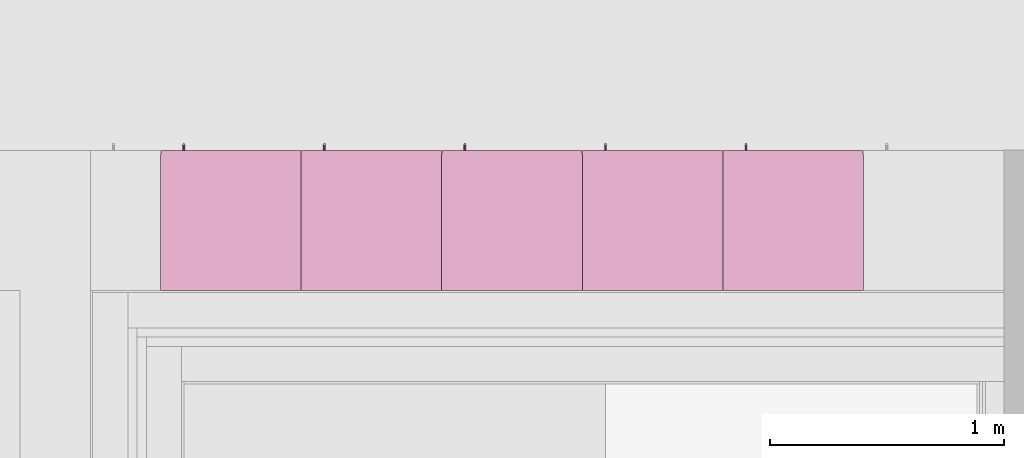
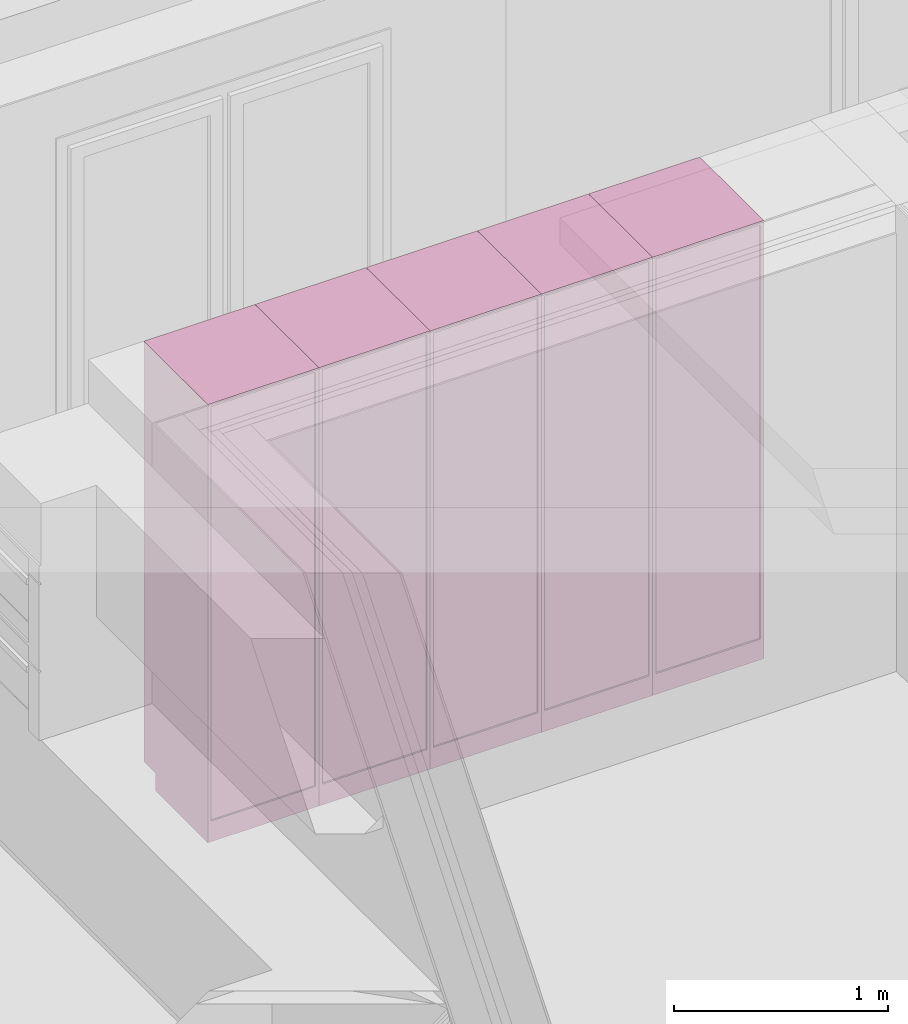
# One storey, part 33 of 34: 5 furniture elements.
"""IFC4 building model written with IfcOpenShell, lengths in millimetres."""

import ifcopenshell
import ifcopenshell.guid

model = None  # the IFC model being written
_history = None  # IfcOwnerHistory: only IFC2X3 demands one
_inside = {}  # id of a spatial element -> (the spatial element, [elements in it])
_under = {}  # id of a project, library or spatial element -> (it, [spatial elements below it])
_declared = {}  # id of a project -> (the project, [libraries it declares])
_typed = {}  # id of a type object -> (the type object, [elements of that type])
_made_of = {}  # id of a material, layer set ... -> (it, [elements and type objects made of it])


def new_model(schema):
    """Start an empty IFC model of exactly this schema.

    Asked for "IFC4X3", IfcOpenShell would pick the latest addendum, in which some entities
    have other attributes; the version numbers below select the first issue.
    IFC2X3 requires an IfcOwnerHistory on every rooted entity: one is made here for all.
    """
    global model, _history
    if schema == "IFC4X3":
        model = ifcopenshell.file(schema_version=(4, 3, 0, 0))
    else:
        model = ifcopenshell.file(schema=schema)
    _inside.clear()
    _under.clear()
    _declared.clear()
    _typed.clear()
    _made_of.clear()
    _history = None
    if model.schema == "IFC2X3":
        org = make("IfcOrganization", Name="unknown")
        user = make(
            "IfcPersonAndOrganization",
            ThePerson=make("IfcPerson", FamilyName="unknown"),
            TheOrganization=org,
        )
        app = make(
            "IfcApplication",
            ApplicationDeveloper=org,
            Version="unknown",
            ApplicationFullName="unknown",
            ApplicationIdentifier="unknown",
        )
        _history = make(
            "IfcOwnerHistory",
            OwningUser=user,
            OwningApplication=app,
            ChangeAction="ADDED",
            CreationDate=0,
        )
    return model


def make(cls, **values):
    """One entity of the class cls with the attributes given. An attribute that is None is left unset."""
    return model.create_entity(
        cls, **{name: value for name, value in values.items() if value is not None}
    )


def entity(cls, *values):
    """Any entity or typed value of the class cls, its attributes in the order of the schema. None: left unset."""
    e = model.create_entity(cls)
    for i, value in enumerate(values):
        if value is not None:
            e[i] = value
    return e


def rooted(cls, **values):
    """An entity with a GlobalId (a new one), such as an element, a storey or a relation."""
    return make(cls, GlobalId=ifcopenshell.guid.new(), OwnerHistory=_history, **values)


def si_unit(unit_type, name, prefix=None):
    """IfcSIUnit, for example si_unit("LENGTHUNIT", "METRE", prefix="MILLI")."""
    return make("IfcSIUnit", UnitType=unit_type, Prefix=prefix, Name=name)


def converted_unit(unit_type, name, factor, base, dimensions=None, offset=None):
    """IfcConversionBasedUnit, such as the inch: factor (a typed value) times the base unit."""
    return make(
        "IfcConversionBasedUnit"
        if offset is None
        else "IfcConversionBasedUnitWithOffset",
        ConversionOffset=offset,
        Dimensions=None
        if dimensions is None
        else entity("IfcDimensionalExponents", *dimensions),
        UnitType=unit_type,
        Name=name,
        ConversionFactor=make(
            "IfcMeasureWithUnit", ValueComponent=factor, UnitComponent=base
        ),
    )


def derived_unit(unit_type, elements):
    """IfcDerivedUnit: a product of units, each with its exponent."""
    return make(
        "IfcDerivedUnit",
        Elements=[
            make("IfcDerivedUnitElement", Unit=unit, Exponent=power)
            for unit, power in elements
        ],
        UnitType=unit_type,
    )


def assignment(units):
    """IfcUnitAssignment: the units of a project."""
    return None if units is None else make("IfcUnitAssignment", Units=units)


def point(xyz):
    """IfcCartesianPoint."""
    return None if xyz is None else make("IfcCartesianPoint", Coordinates=xyz)


def direction(xyz):
    """IfcDirection."""
    return None if xyz is None else make("IfcDirection", DirectionRatios=xyz)


def frame(location, z_axis=None, x_axis=None):
    """IfcAxis2Placement3D, a coordinate frame: its origin and axes. An axis left out is left unset."""
    return make(
        "IfcAxis2Placement3D",
        Location=point(location),
        Axis=direction(z_axis),
        RefDirection=direction(x_axis),
    )


def origin_with_axes():
    """The frame at (0, 0, 0) with the z axis (0, 0, 1) and the x axis (1, 0, 0) written out."""
    return frame((0.0, 0.0, 0.0), z_axis=(0.0, 0.0, 1.0), x_axis=(1.0, 0.0, 0.0))


def place(relative_to, where):
    """IfcLocalPlacement: puts the frame where relative to a parent placement (None: the world)."""
    return make(
        "IfcLocalPlacement", PlacementRelTo=relative_to, RelativePlacement=where
    )


def context(
    kind, dimensions, precision=None, world=None, true_north=None, identifier=None
):
    """IfcGeometricRepresentationContext, for example the 3D "Model" context."""
    return make(
        "IfcGeometricRepresentationContext",
        ContextIdentifier=identifier,
        ContextType=kind,
        CoordinateSpaceDimension=dimensions,
        Precision=precision,
        WorldCoordinateSystem=world,
        TrueNorth=true_north,
    )


def subcontext(parent, identifier, kind, view, scale=None):
    """IfcGeometricRepresentationSubContext, for example "Body" below "Model"."""
    return make(
        "IfcGeometricRepresentationSubContext",
        ContextIdentifier=identifier,
        ContextType=kind,
        ParentContext=parent,
        TargetScale=scale,
        TargetView=view,
    )


def project(units=None, contexts=None):
    """IfcProject with its units and contexts."""
    return rooted(
        "IfcProject",
        Name="project",
        RepresentationContexts=contexts,
        UnitsInContext=assignment(units),
    )


def spatial(cls, under=None, at=None, **own):
    """A site, building, storey or space (cls), placed at a placement, below another one or the project."""
    s = rooted(cls, ObjectPlacement=at, **own)
    if under is not None:
        _under.setdefault(under.id(), (under, []))[1].append(s)
    return s


def point_list(points):
    """IfcCartesianPointList2D or 3D."""
    cls = (
        "IfcCartesianPointList2D" if len(points[0]) == 2 else "IfcCartesianPointList3D"
    )
    return make(cls, CoordList=points)


def polygons(points, faces, closed=None, point_numbers=None):
    """IfcPolygonalFaceSet: a face is its outer loop, then its inner loops; points numbered from 1."""
    made = []
    for loops in faces:
        if len(loops) == 1:
            made.append(make("IfcIndexedPolygonalFace", CoordIndex=loops[0]))
        else:
            made.append(
                make(
                    "IfcIndexedPolygonalFaceWithVoids",
                    CoordIndex=loops[0],
                    InnerCoordIndices=loops[1:],
                )
            )
    return make(
        "IfcPolygonalFaceSet",
        Coordinates=point_list(points),
        Closed=closed,
        Faces=made,
        PnIndex=point_numbers,
    )


def shape(context_of_items, identifier, shape_type, items):
    """IfcShapeRepresentation: the items that make up one representation, for example the "Body"."""
    return make(
        "IfcShapeRepresentation",
        ContextOfItems=context_of_items,
        RepresentationIdentifier=identifier,
        RepresentationType=shape_type,
        Items=items,
    )


def source(mapping_origin, context_of_items, identifier, shape_type, items):
    """IfcRepresentationMap: a shape defined once, which mapped items show again and again."""
    return make(
        "IfcRepresentationMap",
        MappingOrigin=mapping_origin,
        MappedRepresentation=shape(context_of_items, identifier, shape_type, items),
    )


def transform(
    local_origin,
    x_axis=None,
    y_axis=None,
    z_axis=None,
    scale=None,
    scale2=None,
    scale3=None,
    uniform=True,
):
    """IfcCartesianTransformationOperator3D, or its non-uniform kind. x_axis, y_axis, z_axis: its Axis1, 2, 3."""
    if uniform:
        return make(
            "IfcCartesianTransformationOperator3D",
            Axis1=direction(x_axis),
            Axis2=direction(y_axis),
            LocalOrigin=point(local_origin),
            Scale=scale,
            Axis3=direction(z_axis),
        )
    return make(
        "IfcCartesianTransformationOperator3DnonUniform",
        Axis1=direction(x_axis),
        Axis2=direction(y_axis),
        LocalOrigin=point(local_origin),
        Scale=scale,
        Axis3=direction(z_axis),
        Scale2=scale2,
        Scale3=scale3,
    )


def mapped(mapping_source, mapping_target):
    """IfcMappedItem: shows the shape of a source again, moved by a transform."""
    return make(
        "IfcMappedItem", MappingSource=mapping_source, MappingTarget=mapping_target
    )


def made_of(thing, what):
    """Note that an element or type object is made of a material, layer set ...; save() writes the relation."""
    if what is not None:
        _made_of.setdefault(what.id(), (what, []))[1].append(thing)
    return thing


def type_object(cls, material=None, **own):
    """A type object (cls), such as IfcWallType, which elements share."""
    return made_of(rooted(cls, **own), material)


def element(
    cls,
    number,
    at=None,
    inside=None,
    cuts=None,
    type_object=None,
    material=None,
    context=None,
    identifier="Body",
    shape_type=None,
    held_by="IfcProductDefinitionShape",
    body=None,
    shapes=None,
    **own,
):
    """One element of the class cls, such as IfcWall. Its Tag is "e" and its number.

    at: its placement. inside: the storey or other place that contains it. cuts: it is an
    opening in that element (IfcRelVoidsElement). A single representation is given by context,
    identifier, shape_type and body (its items); several are given by shapes. held_by: the class
    of the entity that holds the representations. save() writes the other relations.
    """
    e = rooted(cls, Tag="e%d" % number, ObjectPlacement=at, **own)
    if body is not None:
        shapes = [shape(context, identifier, shape_type, body)]
    if shapes is not None:
        e.Representation = make(held_by, Representations=shapes)
    if inside is not None:
        _inside.setdefault(inside.id(), (inside, []))[1].append(e)
    if cuts is not None:
        rooted(
            "IfcRelVoidsElement", RelatingBuildingElement=cuts, RelatedOpeningElement=e
        )
    if type_object is not None:
        _typed.setdefault(type_object.id(), (type_object, []))[1].append(e)
    return made_of(e, material)


def aggregate(whole, parts):
    """IfcRelAggregates: a whole, such as a stair, and the parts it consists of."""
    return rooted("IfcRelAggregates", RelatingObject=whole, RelatedObjects=parts)


def save(model, path):
    """Write the relations noted so far, then the file.

    IfcRelAggregates (storeys below a building ...), IfcRelContainedInSpatialStructure (elements
    in a storey), IfcRelDefinesByType, IfcRelAssociatesMaterial and IfcRelDeclares: one each for
    every whole, place, type object, material and project.
    """
    for whole, parts in _under.values():
        aggregate(whole, parts)
    for where, things in _inside.values():
        rooted(
            "IfcRelContainedInSpatialStructure",
            RelatedElements=things,
            RelatingStructure=where,
        )
    for kind, things in _typed.values():
        rooted("IfcRelDefinesByType", RelatedObjects=things, RelatingType=kind)
    for what, things in _made_of.values():
        rooted("IfcRelAssociatesMaterial", RelatedObjects=things, RelatingMaterial=what)
    for by, libraries in _declared.values():
        rooted("IfcRelDeclares", RelatingContext=by, RelatedDefinitions=libraries)
    model.write(path)


model = new_model("IFC4")

# Units and contexts
model_context = context("Model", 3, precision=0.01, world=origin_with_axes(), true_north=direction((0.0, 1.0)))
body_context = subcontext(model_context, "Body", "Model", "MODEL_VIEW")
ifc_project = project(units=[si_unit("LENGTHUNIT", "METRE", prefix="MILLI"), si_unit("AREAUNIT", "SQUARE_METRE"), si_unit("VOLUMEUNIT", "CUBIC_METRE"), converted_unit("PLANEANGLEUNIT", "DEGREE", entity("IfcPlaneAngleMeasure", 0.0174532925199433), si_unit("PLANEANGLEUNIT", "RADIAN"), dimensions=[0, 0, 0, 0, 0, 0, 0]), converted_unit("TIMEUNIT", "Year", entity("IfcTimeMeasure", 31557600.0), si_unit("TIMEUNIT", "SECOND"), dimensions=[0, 0, 1, 0, 0, 0, 0]), si_unit("MASSUNIT", "GRAM", prefix="KILO"), si_unit("THERMODYNAMICTEMPERATUREUNIT", "DEGREE_CELSIUS"), si_unit("LUMINOUSINTENSITYUNIT", "LUMEN"), si_unit("ENERGYUNIT", "JOULE", prefix="MEGA"), derived_unit("THERMALCONDUCTANCEUNIT", [(si_unit("POWERUNIT", "WATT"), 1), (si_unit("LENGTHUNIT", "METRE"), -1), (si_unit("THERMODYNAMICTEMPERATUREUNIT", "KELVIN"), -1)]), derived_unit("SPECIFICHEATCAPACITYUNIT", [(si_unit("ENERGYUNIT", "JOULE"), 1), (si_unit("MASSUNIT", "GRAM", prefix="KILO"), -1), (si_unit("THERMODYNAMICTEMPERATUREUNIT", "KELVIN"), -1)]), derived_unit("MASSDENSITYUNIT", [(si_unit("MASSUNIT", "GRAM", prefix="KILO"), 1), (si_unit("VOLUMEUNIT", "CUBIC_METRE"), -1)])], contexts=[model_context])

# Site, building, storey
site_placement = place(None, origin_with_axes())
site = spatial("IfcSite", under=ifc_project, at=site_placement, Name="Gelände", CompositionType="ELEMENT")
building_placement = place(site_placement, origin_with_axes())
building = spatial("IfcBuilding", under=site, at=building_placement, Name="Gebäude", CompositionType="ELEMENT")
storey_placement = place(building_placement, frame((0.0, 0.0, 2900.0), z_axis=(0.0, 0.0, 1.0), x_axis=(1.0, 0.0, 0.0)))
storey = spatial("IfcBuildingStorey", under=building, at=storey_placement, Name="1.OG", CompositionType="ELEMENT", Elevation=2900.0)

# Furniture
furniture_type = type_object("IfcFurnitureType", Name="Stehender Schrank Block 27", AssemblyPlace="NOTDEFINED", PredefinedType="NOTDEFINED")
shared_shape = source(origin_with_axes(), body_context, "Body", "Tessellation", [
    polygons([(501.8682408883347, -597.9999999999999, 1352.799038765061), (502.7101007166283, -597.9999999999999, 1352.573463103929), (503.4999999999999, -597.9999999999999, 1352.205127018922), (504.2139380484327, -597.9999999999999, 1351.705222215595), (504.8302222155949, -597.9999999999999, 1351.088938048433), (505.3301270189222, -597.9999999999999, 1350.375), (505.6984631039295, -597.9999999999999, 1349.585100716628), (505.924038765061, -597.9999999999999, 1348.743240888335), (506.0, -597.9999999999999, 1347.875), (505.924038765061, -597.9999999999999, 1347.006759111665), (505.6984631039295, -597.9999999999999, 1346.164899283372), (505.3301270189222, -597.9999999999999, 1345.375), (504.8302222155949, -597.9999999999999, 1344.661061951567), (504.2139380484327, -597.9999999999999, 1344.044777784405), (503.4999999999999, -597.9999999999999, 1343.544872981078), (502.7101007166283, -597.9999999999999, 1343.176536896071), (501.8682408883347, -597.9999999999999, 1342.950961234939), (501.0, -597.9999999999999, 1342.875), (500.1317591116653, -597.9999999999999, 1342.950961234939), (499.2898992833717, -597.9999999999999, 1343.176536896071), (498.5, -597.9999999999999, 1343.544872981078), (497.7860619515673, -597.9999999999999, 1344.044777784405), (497.1697777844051, -597.9999999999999, 1344.661061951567), (496.6698729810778, -597.9999999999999, 1345.375), (496.3015368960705, -597.9999999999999, 1346.164899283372), (496.075961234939, -597.9999999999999, 1347.006759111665), (496.0, -597.9999999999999, 1347.875), (496.075961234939, -597.9999999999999, 1348.743240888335), (496.3015368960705, -597.9999999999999, 1349.585100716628), (496.6698729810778, -597.9999999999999, 1350.375), (497.1697777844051, -597.9999999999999, 1351.088938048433), (497.7860619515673, -597.9999999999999, 1351.705222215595), (498.5, -597.9999999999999, 1352.205127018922), (499.2898992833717, -597.9999999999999, 1352.573463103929), (500.1317591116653, -597.9999999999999, 1352.799038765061), (501.0, -597.9999999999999, 1352.875), (501.8682408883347, -622.9999999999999, 1352.799038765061), (502.7101007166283, -622.9999999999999, 1352.573463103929), (503.4999999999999, -622.9999999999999, 1352.205127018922), (504.2139380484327, -622.9999999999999, 1351.705222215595), (504.8302222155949, -622.9999999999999, 1351.088938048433), (505.3301270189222, -622.9999999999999, 1350.375), (505.6984631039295, -622.9999999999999, 1349.585100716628), (505.924038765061, -622.9999999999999, 1348.743240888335), (506.0, -622.9999999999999, 1347.875), (505.924038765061, -622.9999999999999, 1347.006759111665), (505.6984631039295, -622.9999999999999, 1346.164899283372), (505.3301270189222, -622.9999999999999, 1345.375), (504.8302222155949, -622.9999999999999, 1344.661061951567), (504.2139380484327, -622.9999999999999, 1344.044777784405), (503.4999999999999, -622.9999999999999, 1343.544872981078), (502.7101007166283, -622.9999999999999, 1343.176536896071), (501.8682408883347, -622.9999999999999, 1342.950961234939), (501.0, -622.9999999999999, 1342.875), (500.1317591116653, -622.9999999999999, 1342.950961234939), (499.2898992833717, -622.9999999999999, 1343.176536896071), (498.5, -622.9999999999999, 1343.544872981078), (497.7860619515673, -622.9999999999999, 1344.044777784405), (497.1697777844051, -622.9999999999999, 1344.661061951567), (496.6698729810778, -622.9999999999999, 1345.375), (496.3015368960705, -622.9999999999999, 1346.164899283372), (496.075961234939, -622.9999999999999, 1347.006759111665), (496.0, -622.9999999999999, 1347.875), (496.075961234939, -622.9999999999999, 1348.743240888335), (496.3015368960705, -622.9999999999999, 1349.585100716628), (496.6698729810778, -622.9999999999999, 1350.375), (497.1697777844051, -622.9999999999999, 1351.088938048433), (497.7860619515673, -622.9999999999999, 1351.705222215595), (498.5, -622.9999999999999, 1352.205127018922), (499.2898992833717, -622.9999999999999, 1352.573463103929), (500.1317591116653, -622.9999999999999, 1352.799038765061), (501.0, -622.9999999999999, 1352.875)], [[[1, 2, 3, 4, 5, 6, 7, 8, 9, 10, 11, 12, 13, 14, 15, 16, 17, 18, 19, 20, 21, 22, 23, 24, 25, 26, 27, 28, 29, 30, 31, 32, 33, 34, 35, 36]], [[2, 1, 37, 38]], [[3, 2, 38, 39]], [[4, 3, 39, 40]], [[5, 4, 40, 41]], [[6, 5, 41, 42]], [[7, 6, 42, 43]], [[8, 7, 43, 44]], [[9, 8, 44, 45]], [[10, 9, 45, 46]], [[11, 10, 46, 47]], [[12, 11, 47, 48]], [[13, 12, 48, 49]], [[14, 13, 49, 50]], [[15, 14, 50, 51]], [[16, 15, 51, 52]], [[17, 16, 52, 53]], [[18, 17, 53, 54]], [[19, 18, 54, 55]], [[20, 19, 55, 56]], [[21, 20, 56, 57]], [[22, 21, 57, 58]], [[23, 22, 58, 59]], [[24, 23, 59, 60]], [[25, 24, 60, 61]], [[26, 25, 61, 62]], [[27, 26, 62, 63]], [[28, 27, 63, 64]], [[29, 28, 64, 65]], [[30, 29, 65, 66]], [[31, 30, 66, 67]], [[32, 31, 67, 68]], [[33, 32, 68, 69]], [[34, 33, 69, 70]], [[35, 34, 70, 71]], [[36, 35, 71, 72]], [[1, 36, 72, 37]], [[37, 72, 71, 70, 69, 68, 67, 66, 65, 64, 63, 62, 61, 60, 59, 58, 57, 56, 55, 54, 53, 52, 51, 50, 49, 48, 47, 46, 45, 44, 43, 42, 41, 40, 39, 38]]], closed=True),
    polygons([(501.8682408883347, -597.9999999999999, 1249.200961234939), (501.0, -597.9999999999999, 1249.125), (500.1317591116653, -597.9999999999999, 1249.200961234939), (499.2898992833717, -597.9999999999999, 1249.426536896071), (498.5, -597.9999999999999, 1249.794872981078), (497.7860619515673, -597.9999999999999, 1250.294777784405), (497.1697777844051, -597.9999999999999, 1250.911061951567), (496.6698729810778, -597.9999999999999, 1251.625), (496.3015368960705, -597.9999999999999, 1252.414899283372), (496.075961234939, -597.9999999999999, 1253.256759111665), (496.0, -597.9999999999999, 1254.125), (496.075961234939, -597.9999999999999, 1254.993240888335), (496.3015368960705, -597.9999999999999, 1255.835100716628), (496.6698729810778, -597.9999999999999, 1256.625), (497.1697777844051, -597.9999999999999, 1257.338938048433), (497.7860619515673, -597.9999999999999, 1257.955222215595), (498.5, -597.9999999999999, 1258.455127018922), (499.2898992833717, -597.9999999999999, 1258.823463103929), (500.1317591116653, -597.9999999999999, 1259.049038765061), (501.0, -597.9999999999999, 1259.125), (501.8682408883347, -597.9999999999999, 1259.049038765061), (502.7101007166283, -597.9999999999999, 1258.823463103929), (503.4999999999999, -597.9999999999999, 1258.455127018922), (504.2139380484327, -597.9999999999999, 1257.955222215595), (504.8302222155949, -597.9999999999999, 1257.338938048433), (505.3301270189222, -597.9999999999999, 1256.625), (505.6984631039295, -597.9999999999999, 1255.835100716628), (505.924038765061, -597.9999999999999, 1254.993240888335), (506.0, -597.9999999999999, 1254.125), (505.924038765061, -597.9999999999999, 1253.256759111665), (505.6984631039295, -597.9999999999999, 1252.414899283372), (505.3301270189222, -597.9999999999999, 1251.625), (504.8302222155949, -597.9999999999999, 1250.911061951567), (504.2139380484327, -597.9999999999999, 1250.294777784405), (503.4999999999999, -597.9999999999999, 1249.794872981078), (502.7101007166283, -597.9999999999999, 1249.426536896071), (501.8682408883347, -622.9999999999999, 1249.200961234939), (501.0, -622.9999999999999, 1249.125), (500.1317591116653, -622.9999999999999, 1249.200961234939), (499.2898992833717, -622.9999999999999, 1249.426536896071), (498.5, -622.9999999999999, 1249.794872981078), (497.7860619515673, -622.9999999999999, 1250.294777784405), (497.1697777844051, -622.9999999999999, 1250.911061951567), (496.6698729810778, -622.9999999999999, 1251.625), (496.3015368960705, -622.9999999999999, 1252.414899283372), (496.075961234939, -622.9999999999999, 1253.256759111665), (496.0, -622.9999999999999, 1254.125), (496.075961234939, -622.9999999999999, 1254.993240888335), (496.3015368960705, -622.9999999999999, 1255.835100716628), (496.6698729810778, -622.9999999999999, 1256.625), (497.1697777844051, -622.9999999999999, 1257.338938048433), (497.7860619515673, -622.9999999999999, 1257.955222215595), (498.5, -622.9999999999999, 1258.455127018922), (499.2898992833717, -622.9999999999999, 1258.823463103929), (500.1317591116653, -622.9999999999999, 1259.049038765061), (501.0, -622.9999999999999, 1259.125), (501.8682408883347, -622.9999999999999, 1259.049038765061), (502.7101007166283, -622.9999999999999, 1258.823463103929), (503.4999999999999, -622.9999999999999, 1258.455127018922), (504.2139380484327, -622.9999999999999, 1257.955222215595), (504.8302222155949, -622.9999999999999, 1257.338938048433), (505.3301270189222, -622.9999999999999, 1256.625), (505.6984631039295, -622.9999999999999, 1255.835100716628), (505.924038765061, -622.9999999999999, 1254.993240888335), (506.0, -622.9999999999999, 1254.125), (505.924038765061, -622.9999999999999, 1253.256759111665), (505.6984631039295, -622.9999999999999, 1252.414899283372), (505.3301270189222, -622.9999999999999, 1251.625), (504.8302222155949, -622.9999999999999, 1250.911061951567), (504.2139380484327, -622.9999999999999, 1250.294777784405), (503.4999999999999, -622.9999999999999, 1249.794872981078), (502.7101007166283, -622.9999999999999, 1249.426536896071)], [[[1, 2, 3, 4, 5, 6, 7, 8, 9, 10, 11, 12, 13, 14, 15, 16, 17, 18, 19, 20, 21, 22, 23, 24, 25, 26, 27, 28, 29, 30, 31, 32, 33, 34, 35, 36]], [[1, 37, 38, 2]], [[2, 38, 39, 3]], [[3, 39, 40, 4]], [[4, 40, 41, 5]], [[5, 41, 42, 6]], [[6, 42, 43, 7]], [[7, 43, 44, 8]], [[8, 44, 45, 9]], [[9, 45, 46, 10]], [[10, 46, 47, 11]], [[11, 47, 48, 12]], [[12, 48, 49, 13]], [[13, 49, 50, 14]], [[14, 50, 51, 15]], [[15, 51, 52, 16]], [[16, 52, 53, 17]], [[17, 53, 54, 18]], [[18, 54, 55, 19]], [[19, 55, 56, 20]], [[20, 56, 57, 21]], [[21, 57, 58, 22]], [[22, 58, 59, 23]], [[23, 59, 60, 24]], [[24, 60, 61, 25]], [[25, 61, 62, 26]], [[26, 62, 63, 27]], [[27, 63, 64, 28]], [[28, 64, 65, 29]], [[29, 65, 66, 30]], [[30, 66, 67, 31]], [[31, 67, 68, 32]], [[32, 68, 69, 33]], [[33, 69, 70, 34]], [[34, 70, 71, 35]], [[35, 71, 72, 36]], [[36, 72, 37, 1]], [[37, 72, 71, 70, 69, 68, 67, 66, 65, 64, 63, 62, 61, 60, 59, 58, 57, 56, 55, 54, 53, 52, 51, 50, 49, 48, 47, 46, 45, 44, 43, 42, 41, 40, 39, 38]]], closed=True),
    polygons([(501.8682408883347, -618.0759612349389, 1226.0), (502.7101007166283, -618.3015368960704, 1226.0), (503.4999999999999, -618.6698729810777, 1226.0), (504.2139380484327, -619.1697777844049, 1226.0), (504.8302222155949, -619.7860619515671, 1226.0), (505.3301270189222, -620.4999999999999, 1226.0), (505.6984631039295, -621.2898992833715, 1226.0), (505.924038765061, -622.1317591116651, 1226.0), (506.0, -622.9999999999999, 1226.0), (505.924038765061, -623.8682408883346, 1226.0), (505.6984631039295, -624.7101007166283, 1226.0), (505.3301270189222, -625.4999999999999, 1226.0), (504.8302222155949, -626.2139380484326, 1226.0), (504.2139380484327, -626.8302222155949, 1226.0), (503.4999999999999, -627.3301270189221, 1226.0), (502.7101007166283, -627.6984631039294, 1226.0), (501.8682408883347, -627.924038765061, 1226.0), (501.0, -627.9999999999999, 1226.0), (500.1317591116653, -627.924038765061, 1226.0), (499.2898992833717, -627.6984631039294, 1226.0), (498.5, -627.3301270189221, 1226.0), (497.7860619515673, -626.8302222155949, 1226.0), (497.1697777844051, -626.2139380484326, 1226.0), (496.6698729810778, -625.4999999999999, 1226.0), (496.3015368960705, -624.7101007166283, 1226.0), (496.075961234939, -623.8682408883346, 1226.0), (496.0, -622.9999999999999, 1226.0), (496.075961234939, -622.1317591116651, 1226.0), (496.3015368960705, -621.2898992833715, 1226.0), (496.6698729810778, -620.4999999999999, 1226.0), (497.1697777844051, -619.7860619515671, 1226.0), (497.7860619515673, -619.1697777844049, 1226.0), (498.5, -618.6698729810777, 1226.0), (499.2898992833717, -618.3015368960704, 1226.0), (500.1317591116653, -618.0759612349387, 1226.0), (501.0, -617.9999999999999, 1226.0), (501.8682408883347, -618.0759612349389, 1376.0), (502.7101007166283, -618.3015368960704, 1376.0), (503.5000000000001, -618.6698729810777, 1376.0), (504.2139380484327, -619.1697777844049, 1376.0), (504.8302222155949, -619.7860619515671, 1376.0), (505.3301270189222, -620.4999999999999, 1376.0), (505.6984631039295, -621.2898992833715, 1376.0), (505.9240387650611, -622.1317591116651, 1376.0), (506.0, -622.9999999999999, 1376.0), (505.9240387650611, -623.8682408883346, 1376.0), (505.6984631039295, -624.7101007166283, 1376.0), (505.3301270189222, -625.4999999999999, 1376.0), (504.8302222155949, -626.2139380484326, 1376.0), (504.2139380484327, -626.8302222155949, 1376.0), (503.5000000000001, -627.3301270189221, 1376.0), (502.7101007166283, -627.6984631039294, 1376.0), (501.8682408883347, -627.924038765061, 1376.0), (501.0, -627.9999999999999, 1376.0), (500.1317591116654, -627.924038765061, 1376.0), (499.2898992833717, -627.6984631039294, 1376.0), (498.5, -627.3301270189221, 1376.0), (497.7860619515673, -626.8302222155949, 1376.0), (497.1697777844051, -626.2139380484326, 1376.0), (496.6698729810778, -625.4999999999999, 1376.0), (496.3015368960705, -624.7101007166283, 1376.0), (496.075961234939, -623.8682408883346, 1376.0), (496.0, -622.9999999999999, 1376.0), (496.075961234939, -622.1317591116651, 1376.0), (496.3015368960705, -621.2898992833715, 1376.0), (496.6698729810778, -620.4999999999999, 1376.0), (497.1697777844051, -619.7860619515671, 1376.0), (497.7860619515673, -619.1697777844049, 1376.0), (498.5, -618.6698729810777, 1376.0), (499.2898992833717, -618.3015368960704, 1376.0), (500.1317591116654, -618.0759612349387, 1376.0), (501.0, -617.9999999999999, 1376.0)], [[[1, 2, 3, 4, 5, 6, 7, 8, 9, 10, 11, 12, 13, 14, 15, 16, 17, 18, 19, 20, 21, 22, 23, 24, 25, 26, 27, 28, 29, 30, 31, 32, 33, 34, 35, 36]], [[2, 1, 37, 38]], [[3, 2, 38, 39]], [[4, 3, 39, 40]], [[5, 4, 40, 41]], [[6, 5, 41, 42]], [[7, 6, 42, 43]], [[8, 7, 43, 44]], [[9, 8, 44, 45]], [[10, 9, 45, 46]], [[11, 10, 46, 47]], [[12, 11, 47, 48]], [[13, 12, 48, 49]], [[14, 13, 49, 50]], [[15, 14, 50, 51]], [[16, 15, 51, 52]], [[17, 16, 52, 53]], [[18, 17, 53, 54]], [[19, 18, 54, 55]], [[20, 19, 55, 56]], [[21, 20, 56, 57]], [[22, 21, 57, 58]], [[23, 22, 58, 59]], [[24, 23, 59, 60]], [[25, 24, 60, 61]], [[26, 25, 61, 62]], [[27, 26, 62, 63]], [[28, 27, 63, 64]], [[29, 28, 64, 65]], [[30, 29, 65, 66]], [[31, 30, 66, 67]], [[32, 31, 67, 68]], [[33, 32, 68, 69]], [[34, 33, 69, 70]], [[35, 34, 70, 71]], [[36, 35, 71, 72]], [[1, 36, 72, 37]], [[37, 72, 71, 70, 69, 68, 67, 66, 65, 64, 63, 62, 61, 60, 59, 58, 57, 56, 55, 54, 53, 52, 51, 50, 49, 48, 47, 46, 45, 44, 43, 42, 41, 40, 39, 38]]], closed=True),
    polygons([(1.0, -580.0, 101.0), (599.0, -580.0, 101.0), (599.0, -598.0, 101.0), (1.0, -598.0, 101.0), (1.0, -579.9999999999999, 2499.0), (599.0, -579.9999999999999, 2499.0), (599.0, -597.9999999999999, 2499.0), (1.0, -597.9999999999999, 2499.0)], [[[1, 2, 3, 4]], [[1, 5, 6, 2]], [[2, 6, 7, 3]], [[4, 3, 7, 8]], [[5, 1, 4, 8]], [[6, 5, 8, 7]]], closed=True),
    polygons([(18.0, -580.0, 100.0), (582.0, -580.0, 100.0), (582.0, -580.0, 118.0), (18.0, -580.0, 118.0), (18.0, 0.0, 100.0), (582.0, 0.0, 100.0), (582.0, 0.0, 118.0), (18.0, 0.0, 118.0)], [[[1, 2, 3, 4]], [[1, 5, 6, 2]], [[2, 6, 7, 3]], [[4, 3, 7, 8]], [[5, 1, 4, 8]], [[6, 5, 8, 7]]], closed=True),
    polygons([(18.0, -580.0, 2482.0), (582.0, -580.0, 2482.0), (582.0, -580.0, 2500.0), (18.0, -580.0, 2500.0), (18.0, 0.0, 2482.0), (582.0, 0.0, 2482.0), (582.0, 0.0, 2500.0), (18.0, 0.0, 2500.0)], [[[1, 2, 3, 4]], [[1, 5, 6, 2]], [[2, 6, 7, 3]], [[4, 3, 7, 8]], [[5, 1, 4, 8]], [[6, 5, 8, 7]]], closed=True),
    polygons([(0.0, 0.0, 100.0), (0.0, -580.0, 100.0), (0.0, -580.0, 2500.0), (0.0, 0.0, 2500.0), (18.0, 0.0, 100.0), (18.0, -580.0, 100.0), (18.0, -580.0, 2500.0), (18.0, 0.0, 2500.0)], [[[1, 2, 3, 4]], [[1, 5, 6, 2]], [[2, 6, 7, 3]], [[4, 3, 7, 8]], [[5, 1, 4, 8]], [[6, 5, 8, 7]]], closed=True),
    polygons([(600.0, -580.0, 100.0), (600.0, 0.0, 100.0), (600.0, 0.0, 2500.0), (600.0, -580.0, 2500.0), (582.0, -580.0, 100.0), (582.0, 0.0, 100.0), (582.0, 0.0, 2500.0), (582.0, -580.0, 2500.0)], [[[1, 2, 3, 4]], [[1, 5, 6, 2]], [[2, 6, 7, 3]], [[4, 3, 7, 8]], [[5, 1, 4, 8]], [[6, 5, 8, 7]]], closed=True),
    polygons([(582.0, -9.0, 118.0), (18.00000000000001, -9.0, 118.0), (18.00000000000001, -9.0, 2482.0), (582.0, -9.0, 2482.0), (582.0, -18.0, 118.0), (18.00000000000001, -18.0, 118.0), (18.00000000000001, -18.0, 2482.0), (582.0, -18.0, 2482.0)], [[[1, 2, 3, 4]], [[1, 5, 6, 2]], [[2, 6, 7, 3]], [[4, 3, 7, 8]], [[5, 1, 4, 8]], [[6, 5, 8, 7]]], closed=True),
    polygons([(0.0, -490.0, 0.0), (600.0, -490.0, 0.0), (600.0, -490.0, 100.0), (0.0, -490.0, 100.0), (0.0, 0.0, 0.0), (600.0, 0.0, 0.0), (600.0, 0.0, 100.0), (0.0, 0.0, 100.0)], [[[1, 2, 3, 4]], [[1, 5, 6, 2]], [[2, 6, 7, 3]], [[4, 3, 7, 8]], [[5, 1, 4, 8]], [[6, 5, 8, 7]]], closed=True),
])
for number, where, z_axis, x_axis in (
    (1, (8928.997444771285, 34847.59728131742, 149.9999999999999), (0.0, 0.0, 1.0), (-1.0, 0.0, 0.0)),
    (2, (9528.997444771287, 34847.59728131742, 149.9999999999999), (0.0, 0.0, 1.0), (-1.0, 0.0, 0.0)),
    (3, (10128.99744477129, 34847.59728131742, 149.9999999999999), (0.0, 0.0, 1.0), (-1.0, 0.0, 0.0)),
    (4, (10728.99744477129, 34847.59728131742, 149.9999999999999), (0.0, 0.0, 1.0), (-1.0, 0.0, 0.0)),
    (5, (11328.99744477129, 34847.59728131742, 149.9999999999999), (0.0, 0.0, 1.0), (-1.0, 0.0, 0.0)),
):
    element("IfcFurniture", number, at=place(storey_placement, frame(where, z_axis=z_axis, x_axis=x_axis)), inside=storey, type_object=furniture_type, Name="Möbel-021", PredefinedType="NOTDEFINED", context=body_context, shape_type="MappedRepresentation", body=[
        mapped(shared_shape, transform((0.0, 0.0, 0.0))),
    ])

save(model, "model.ifc")
